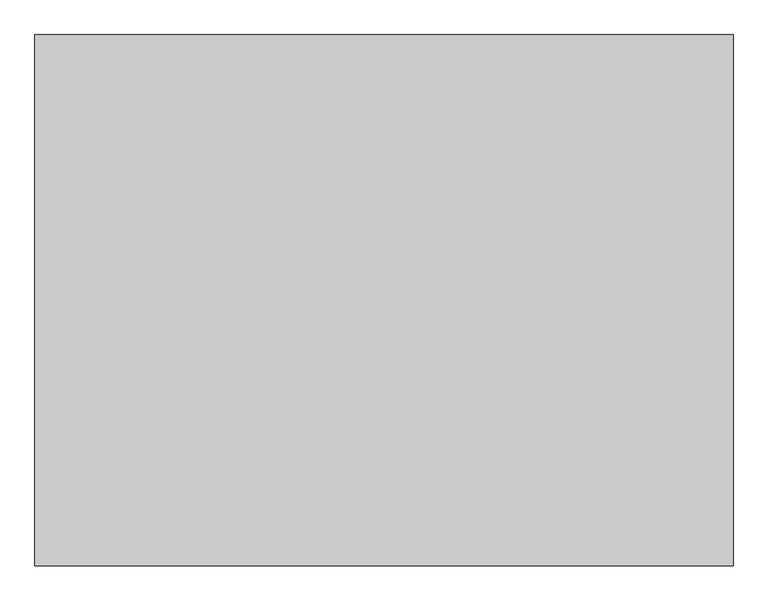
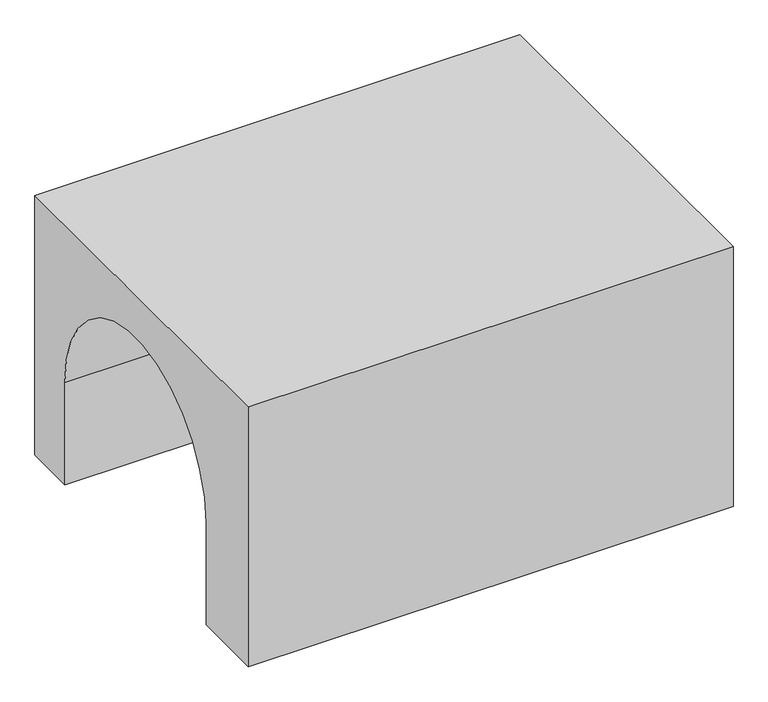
"""IFC4 building model written with IfcOpenShell, lengths in millimetres: proxy geometry, Stollen : Stollen."""

from ifc_helpers import new_model, si_unit, point, frame, frame_2d, origin, place, context, project, spatial, polyline, circle_curve, trimmed, segment, composite_curve, outline, extrude, source, transform, mapped, element, save


def generic_models_93f284b6(model_context):
    return source(origin(), model_context, "Body", "SweptSolid", [
        extrude(outline(composite_curve([segment(polyline([(0.0, -2000.0), (0.0, -6268.0154739), (-805.5391258, -6268.0154739), (-805.5391258, -4588.0154739)]), True, "CONTINUOUS"), segment(trimmed(circle_curve(frame_2d((-2705.5391258, -4588.0154739)), 1900.0), [point((-805.5391258, -4588.0154739))], [point((-4605.5391258, -4588.0154739))], True, "CARTESIAN"), True, "CONTINUOUS"), segment(polyline([(-4605.5391258, -4588.0154739), (-4605.5391258, -6268.0154739), (-5736.412194, -6268.0154739), (-5736.412194, -2000.0), (0.0, -2000.0)]), True, "CONTINUOUS")], self_intersect=False)), frame((-7534.4929002, 0.0, 0.0), z_axis=(1.0, 0.0, 0.0), x_axis=(0.0, 1.0, 0.0)), (0.0, 0.0, 1.0), 7534.4929002),
    ])


if __name__ == "__main__":
    model = new_model("IFC4")
    model_context = context("Model", 3, world=origin())
    ifc_project = project(units=[si_unit("LENGTHUNIT", "METRE", prefix="MILLI")], contexts=[model_context])
    site = spatial("IfcSite", under=ifc_project)
    building = spatial("IfcBuilding", under=site)
    placement = place(None, origin())
    generic_models_shape = generic_models_93f284b6(model_context)
    element("IfcBuildingElementProxy", 1, Name="Stollen : Stollen", ObjectType="Stollen : Stollen", at=placement, inside=building, context=model_context, shape_type="MappedRepresentation", body=[
        mapped(generic_models_shape, transform((0.0, 0.0, 0.0), x_axis=(1.0, 0.0, 0.0), y_axis=(0.0, 1.0, 0.0), z_axis=(0.0, 0.0, 1.0))),
    ])
    save(model, "model.ifc")
